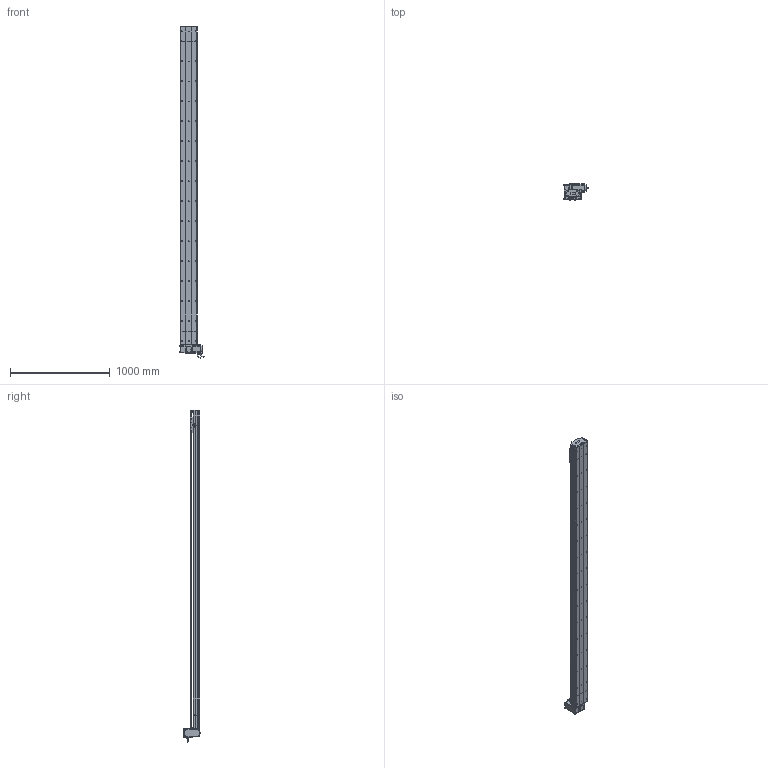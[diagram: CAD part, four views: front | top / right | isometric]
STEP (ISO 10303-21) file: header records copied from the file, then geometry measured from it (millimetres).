
FILE_DESCRIPTION (( 'STEP AP214' ), '1' );
FILE_NAME ('D17 TBH RT S2900.STEP', '2010-06-30T09:00:02', ( 'Christophe Gaillard' ), ( 'SGA' ), 'SwSTEP 2.0', 'SolidWorks 2010', '' );
FILE_SCHEMA (( 'AUTOMOTIVE_DESIGN' ));
Length unit declared in the file: millimetre
Products named in the file (40): vis M5 L70_Default; corp tail D17B+100_Default; tete d''axe poulie D17B; vis M5 L8 90°_Default; vis M5 L25_Default; Chariot D17; couvercle D17B head_Default; codeur 90BLDC125-640; corps 90BLDC125A-640; avant 90BLDC125A-640; Moteur motionking 90BLDC125A-640; couroie head D17_Default; poulie head_Default; vis M5 L5_Default; cache D17_Default; Arbre+rail head D17B; plaque de  bout head D17B RT_Default; Conecteur2_Default; chariot D17S_Default; vis M5 L16_Default; couvercle D17B course L2900_Default; Head RT D17B_Default; corpl head D17 _Default; guide D17; vis M5 L12_Default; plaque de  bout tail D17B_Default; couvercle D17B_Default; Rail D17B; poulie tail_Default; Vis M5 L16-2_Default; Couroie+ rail D17 Course 2900 ; Plaque racord D17_Default; Conecteur_Default; corp D17B 2900_Default; D17 TBH RT S2900; Couroie tail D17B_Default; cache arbre D17_Default; Tail D17B+100_Default; Renvoi RT_Default; course 2900 D17B_Default
Assembly tree (70 placements, depth 4):
  D17 TBH RT S2900
    course 2900 D17B_Default
      corp D17B 2900_Default
      Couroie+ rail D17 Course 2900 
      couvercle D17B course L2900_Default
    chariot D17S_Default
      Chariot D17
      vis M5 L12_Default  x4
      guide D17  x2
    Tail D17B+100_Default
      vis M5 L8 90°_Default  x2
      vis M5 L25_Default  x2
      couvercle D17B_Default
      vis M5 L12_Default  x4
      plaque de  bout tail D17B_Default
      corp tail D17B+100_Default
      poulie tail_Default
      tete d''axe poulie D17B
      Rail D17B
      Couroie tail D17B_Default
    Head RT D17B_Default
      Arbre+rail head D17B
      vis M5 L12_Default  x8
      vis M5 L70_Default  x4
      Vis M5 L16-2_Default  x4
      couvercle D17B head_Default
      cache D17_Default  x2
      poulie head_Default
      vis M5 L25_Default  x2
      vis M5 L5_Default  x4
      Renvoi RT_Default
      cache arbre D17_Default
      couroie head D17_Default
      plaque de  bout head D17B RT_Default
      corpl head D17 _Default
      vis M5 L16_Default  x2
      Moteur motionking 90BLDC125A-640
        codeur 90BLDC125-640
        avant 90BLDC125A-640
        corps 90BLDC125A-640
        Conecteur_Default
        Conecteur2_Default
      Plaque racord D17_Default
Bounding box: 245.2 x 166.15 x 3323.95 mm (x, y, z)
Volume: 18975811.8 mm3; surface area: 5524598.3 mm2
Topology: 94 solids, 94 shells, 2777 faces, 7103 edges, 4570 vertices
Faces by surface type: plane 1611, cylinder 853, bspline 136, cone 88, torus 85, sphere 4
Entity records: 87994 total; most frequent: CARTESIAN_POINT 25763, ORIENTED_EDGE 10978, DIRECTION 10390, EDGE_CURVE 5489, VERTEX_POINT 3594, VECTOR 3568, LINE 3568, AXIS2_PLACEMENT_3D 3411
